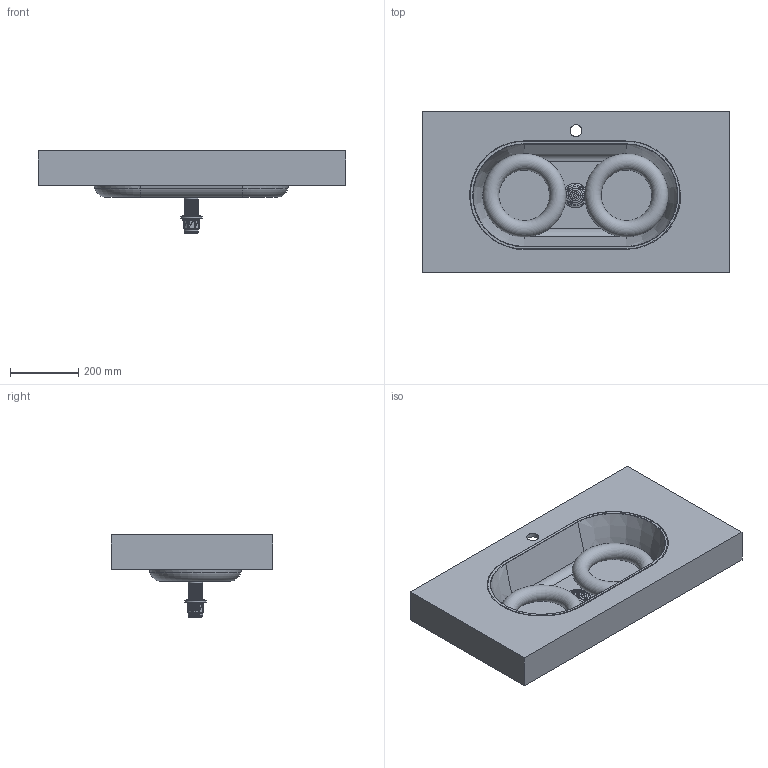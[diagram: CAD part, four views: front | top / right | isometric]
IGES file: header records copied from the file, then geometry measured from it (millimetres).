
Start section: Data from Parasolid IGES Translator 19.0.9, Copyright(c) 2006 Siemens PL M Software. All Rights Reserved.
Global section: file name: noorth-top-H 10 D 47,3 W 90_6534.igs; native system: By Siemens PLM Incorporated; preprocessor: XPlus GENERIC/IGES 19.0.9; author: Noname; organization: Noname; date: 20200603.093240; units: metre
Bounding box: 900 x 472 x 240 mm (x, y, z)
Volume: 10296354 mm3; surface area: 1625601.6 mm2
Topology: 2 solids, 2 shells, 11670 faces, 34981 edges, 34932 vertices
Faces by surface type: extrusion 11618, plane 20, cylinder 15, torus 10, cone 5, bspline 2
Full cylindrical faces by diameter (mm): 34.9 x1
